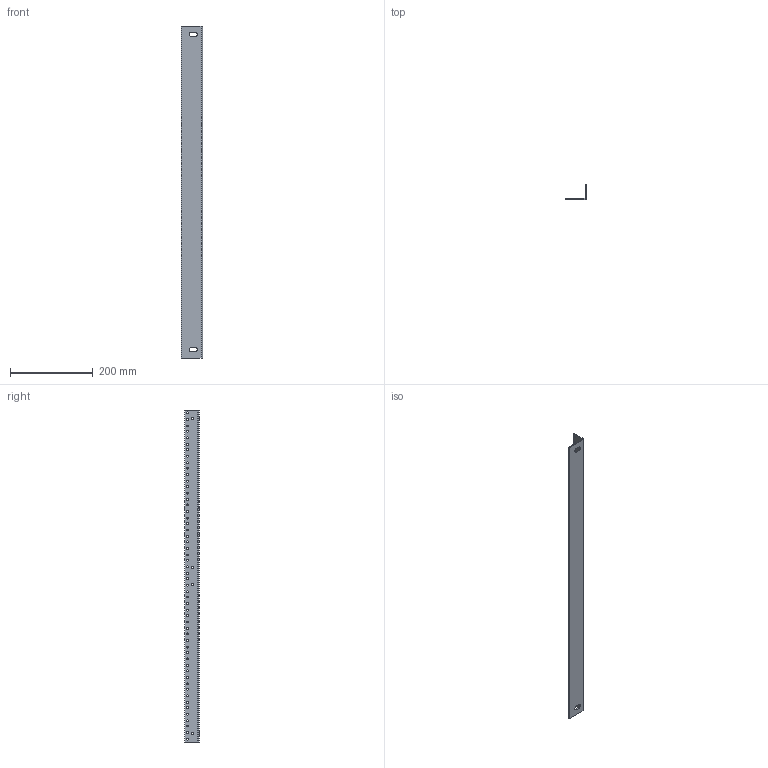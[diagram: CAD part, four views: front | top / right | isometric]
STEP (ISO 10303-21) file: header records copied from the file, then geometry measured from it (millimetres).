
FILE_DESCRIPTION(/* description */ ('Unknown'),/* implementation_level */ '2;1');
FILE_NAME(/* name */ 'H1TRR18U24BK',/* time_stamp */ '2021-03-04T12:58:30-05:00',/* author */ ('Unknown'),/* organization */ ('Unknown'),/* preprocessor_version */ 'ST-DEVELOPER v16.7',/* originating_system */ 'Solid Edge',/* authorisation */ 'Unknown');
FILE_SCHEMA (('AUTOMOTIVE_DESIGN {1 0 10303 214 3 1 1}'));
Length unit declared in the file: millimetre
Products named in the file (1): COM57448-18LB
Bounding box: 50.8 x 35.41 x 800.86 mm (x, y, z)
Volume: 156698.2 mm3; surface area: 136778 mm2
Topology: 1 solids, 1 shells, 199 faces, 604 edges, 422 vertices
Faces by surface type: plane 104, cylinder 84, bspline 11
Full cylindrical faces by diameter (mm): 4.496 x58
Entity records: 6722 total; most frequent: CARTESIAN_POINT 1671, ORIENTED_EDGE 976, DIRECTION 938, EDGE_CURVE 488, EDGE_LOOP 392, FACE_BOUND 392, VERTEX_POINT 364, AXIS2_PLACEMENT_3D 357
